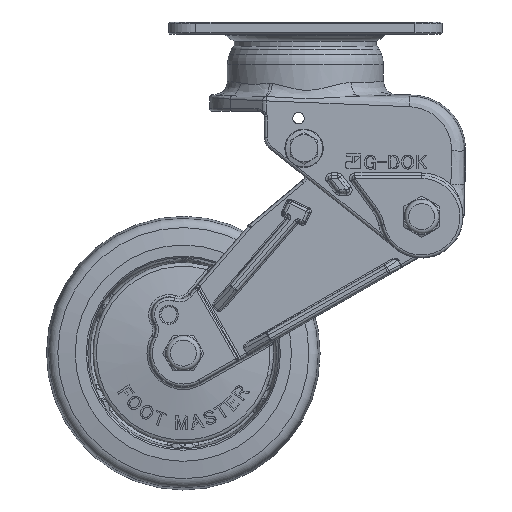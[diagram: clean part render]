
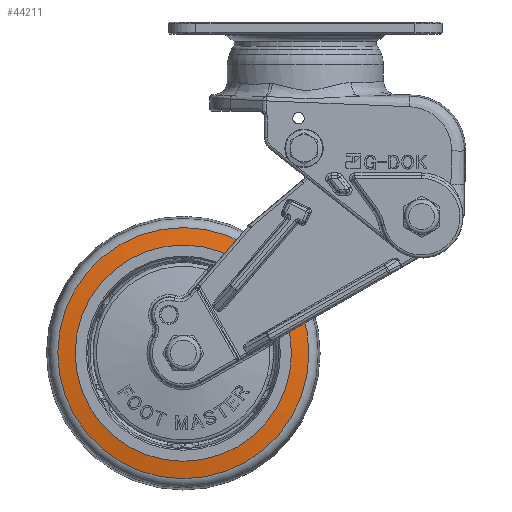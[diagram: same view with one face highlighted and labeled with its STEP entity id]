
A CAD part, front view. The second image highlights one B-rep face of the part: STEP entity #44211.
In plain terms, the highlighted conical face has half-angle 80.918 degrees and reference radius 42.694 mm.
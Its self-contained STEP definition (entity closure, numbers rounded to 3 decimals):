
#1386=CONICAL_SURFACE('',#46818,42.694,1.412);
#4488=FACE_OUTER_BOUND('',#7183,.T.);
#7183=EDGE_LOOP('',(#28910,#28911,#28912,#28913,#28914));
#9679=CIRCLE('',#46819,45.873);
#9680=CIRCLE('',#46820,39.516);
#9681=CIRCLE('',#46821,45.873);
#12130=LINE('',#63954,#14621);
#14621=VECTOR('',#51702,42.694);
#17087=VERTEX_POINT('',#63950);
#17088=VERTEX_POINT('',#63951);
#17089=VERTEX_POINT('',#63953);
#21452=EDGE_CURVE('',#17087,#17088,#9679,.T.);
#21453=EDGE_CURVE('',#17088,#17089,#12130,.T.);
#21454=EDGE_CURVE('',#17089,#17089,#9680,.T.);
#21455=EDGE_CURVE('',#17088,#17087,#9681,.T.);
#28910=ORIENTED_EDGE('',*,*,#21452,.T.);
#28911=ORIENTED_EDGE('',*,*,#21453,.T.);
#28912=ORIENTED_EDGE('',*,*,#21454,.T.);
#28913=ORIENTED_EDGE('',*,*,#21453,.F.);
#28914=ORIENTED_EDGE('',*,*,#21455,.T.);
#44211=ADVANCED_FACE('',(#4488),#1386,.T.);
#46818=AXIS2_PLACEMENT_3D('',#63949,#51698,#51699);
#46819=AXIS2_PLACEMENT_3D('',#63952,#51700,#51701);
#46820=AXIS2_PLACEMENT_3D('',#63955,#51703,#51704);
#46821=AXIS2_PLACEMENT_3D('',#63956,#51705,#51706);
#51698=DIRECTION('center_axis',(0.,1.,0.));
#51699=DIRECTION('ref_axis',(0.868,0.,0.497));
#51700=DIRECTION('center_axis',(0.,-1.,0.));
#51701=DIRECTION('ref_axis',(0.497,0.,-0.868));
#51702=DIRECTION('',(0.857,-0.158,0.49));
#51703=DIRECTION('center_axis',(0.,1.,0.));
#51704=DIRECTION('ref_axis',(0.868,0.,0.497));
#51705=DIRECTION('center_axis',(0.,-1.,0.));
#51706=DIRECTION('ref_axis',(0.497,0.,-0.868));
#63949=CARTESIAN_POINT('Origin',(-44.607,-14.492,-112.349));
#63950=CARTESIAN_POINT('',(-67.392,-13.984,-72.535));
#63951=CARTESIAN_POINT('',(-84.421,-13.984,-135.134));
#63952=CARTESIAN_POINT('Origin',(-44.607,-13.984,-112.349));
#63953=CARTESIAN_POINT('',(-78.904,-15.,-131.977));
#63954=CARTESIAN_POINT('',(-81.663,-14.492,-133.555));
#63955=CARTESIAN_POINT('Origin',(-44.607,-15.,-112.349));
#63956=CARTESIAN_POINT('Origin',(-44.607,-13.984,-112.349));
